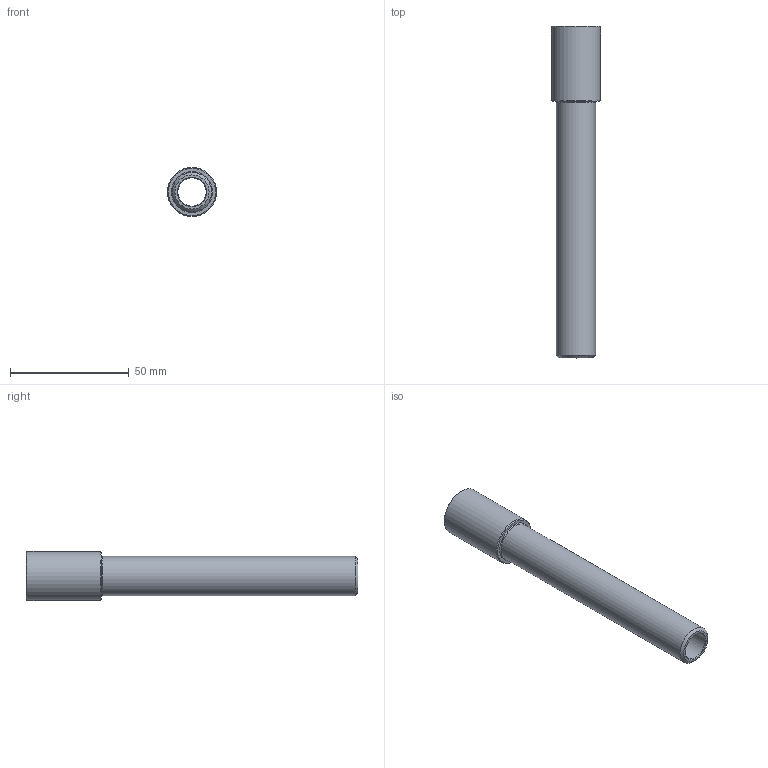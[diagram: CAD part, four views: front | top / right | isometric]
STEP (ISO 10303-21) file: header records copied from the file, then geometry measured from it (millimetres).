
FILE_DESCRIPTION(/* description */ (''),/* implementation_level */ '2;1');
FILE_NAME(/* name */ 'C:/Users/drich/Desktop/EP38X5-1_2 v1.step',/* time_stamp */ '2019-11-18T15:06:52-06:00',/* author */ (''),/* organization */ (''),/* preprocessor_version */ 'ST-DEVELOPER v18',/* originating_system */ 'Autodesk Translation Framework v8.12.0.6',/* authorisation */ '');
FILE_SCHEMA (('AUTOMOTIVE_DESIGN { 1 0 10303 214 3 1 1 }'));
Length unit declared in the file: inch
Products named in the file (2): EP38X5-1_2; EP38X4
Assembly tree (1 placements, depth 2):
  EP38X5-1_2
    EP38X4
Bounding box: 20.62 x 139.7 x 20.62 mm (x, y, z)
Volume: 16669.1 mm3; surface area: 13532.3 mm2
Topology: 1 solids, 1 shells, 23 faces, 55 edges, 37 vertices
Faces by surface type: plane 11, cone 7, cylinder 5
Full cylindrical faces by diameter (mm): 11.887 x1, 14.986 x1, 15.173 x1, 16.537 x1, 20.625 x1
Entity records: 740 total; most frequent: CARTESIAN_POINT 132, DIRECTION 124, ORIENTED_EDGE 110, EDGE_CURVE 55, AXIS2_PLACEMENT_3D 50, VERTEX_POINT 37, EDGE_LOOP 28, LINE 24
